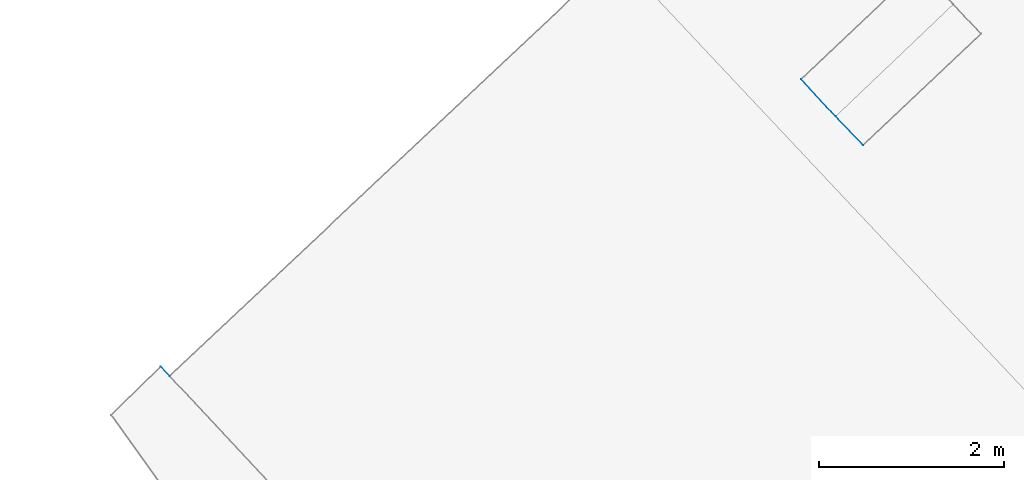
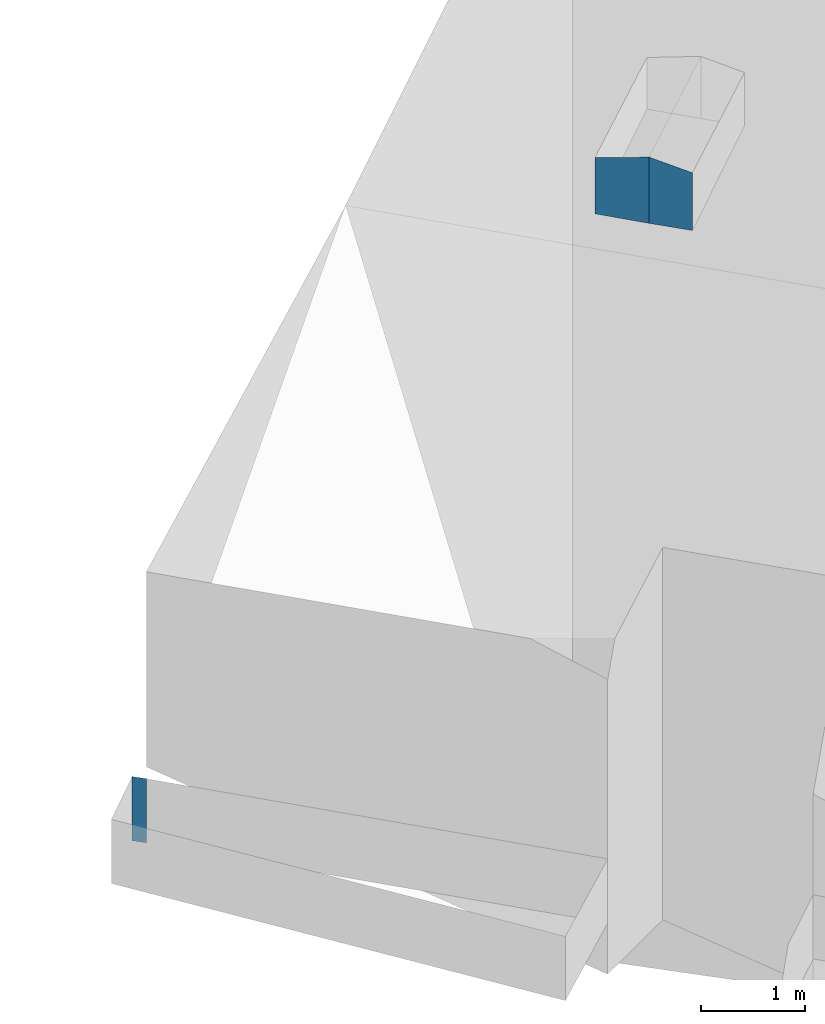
# Not in any storey, part 110 of 136: 4 walls.
"""IFC4 building model written with IfcOpenShell, lengths in metres."""

from ifc_helpers import new_model, entity, si_unit, converted_unit, origin, place, context, subcontext, project, spatial, face_set, surface_model, element, save


model = new_model("IFC4")

# Units and contexts
model_context = context("Model", 3, precision=1e-05, world=origin())
body_context = subcontext(model_context, "Body", "Model", "MODEL_VIEW")
ifc_project = project(units=[converted_unit("PLANEANGLEUNIT", "DEGREE", entity("IfcRatioMeasure", 0.0174532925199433), si_unit("PLANEANGLEUNIT", "RADIAN"), dimensions=[0, 0, 0, 0, 0, 0, 0]), si_unit("AREAUNIT", "SQUARE_METRE"), si_unit("LENGTHUNIT", "METRE")], contexts=[model_context])

# Site, building
site_placement = place(None, origin())
site = spatial("IfcSite", under=ifc_project, at=site_placement, Name="_site")
building_placement = place(site_placement, origin())
building = spatial("IfcBuilding", under=site, at=building_placement, Name="_building")

# Walls
wall_1_placement = place(building_placement, origin())
element("IfcWall", 1, at=wall_1_placement, inside=building, Name="Wall", PredefinedType="NOTDEFINED", context=body_context, shape_type="SurfaceModel", body=[
    surface_model("IfcFaceBasedSurfaceModel", [(-4.54, 132.22, 47.63), (-4.44, 132.12, 47.63), (-4.44, 132.12, 48.38), (-4.54, 132.22, 48.38)], [face_set([[[0, 1, 2, 3]]])]),
])
wall_2_placement = place(building_placement, origin())
element("IfcWall", 2, at=wall_2_placement, inside=building, Name="Wall", PredefinedType="NOTDEFINED", context=body_context, shape_type="SurfaceModel", body=[
    surface_model("IfcFaceBasedSurfaceModel", [(3.04, 134.61, 51.34), (2.74, 134.92, 51.44), (2.74, 134.92, 50.664), (3.04, 134.61, 50.664)], [face_set([[[0, 1, 2, 3]]])]),
])
wall_3_placement = place(building_placement, origin())
element("IfcWall", 3, at=wall_3_placement, inside=building, Name="Wall", PredefinedType="NOTDEFINED", context=body_context, shape_type="SurfaceModel", body=[
    surface_model("IfcFaceBasedSurfaceModel", [(-4.54, 132.22, 47.63), (-4.44, 132.12, 47.63), (-4.44, 132.12, 48.38), (-4.54, 132.22, 48.38)], [face_set([[[0, 1, 2, 3]]])]),
])
wall_4_placement = place(building_placement, origin())
element("IfcWall", 4, at=wall_4_placement, inside=building, Name="Wall", PredefinedType="NOTDEFINED", context=body_context, shape_type="SurfaceModel", body=[
    surface_model("IfcFaceBasedSurfaceModel", [(2.74, 134.92, 51.44), (2.37, 135.32, 51.32), (2.37, 135.32, 50.664), (2.74, 134.92, 50.664)], [face_set([[[0, 1, 2, 3]]])]),
])

save(model, "model.ifc")
